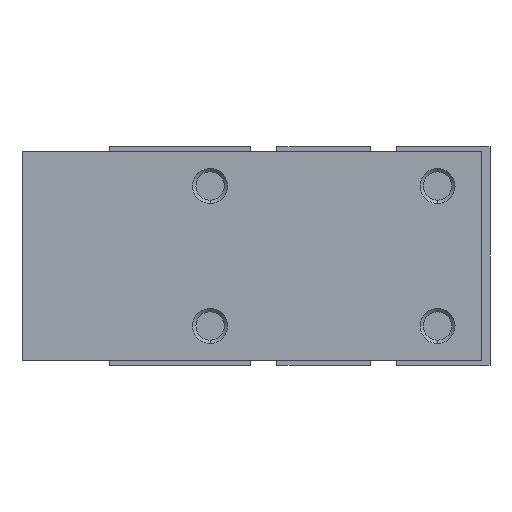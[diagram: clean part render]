
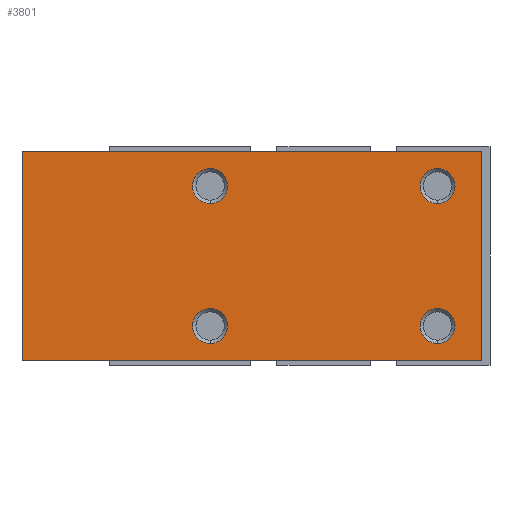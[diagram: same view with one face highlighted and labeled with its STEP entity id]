
A CAD part, left-side view. The second image highlights one B-rep face of the part: STEP entity #3801.
In plain terms, the highlighted planar face has unit normal (-1, 0, 0).
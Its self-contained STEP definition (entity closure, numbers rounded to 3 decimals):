
#61 = LINE ( 'NONE', #1890, #2529 ) ;
#175 = CARTESIAN_POINT ( 'NONE',  ( -14., -18., -12. ) ) ;
#231 = EDGE_LOOP ( 'NONE', ( #2776, #4178 ) ) ;
#249 = CARTESIAN_POINT ( 'NONE',  ( -14., 34.5, -12. ) ) ;
#285 = CARTESIAN_POINT ( 'NONE',  ( -14., 34.5, 12. ) ) ;
#319 = CIRCLE ( 'NONE', #3099, 2. ) ;
#453 = EDGE_LOOP ( 'NONE', ( #4117, #961 ) ) ;
#549 = CARTESIAN_POINT ( 'NONE',  ( -14., 13., -6. ) ) ;
#551 = VERTEX_POINT ( 'NONE', #3405 ) ;
#588 = FACE_BOUND ( 'NONE', #2471, .T. ) ;
#795 = DIRECTION ( 'NONE',  ( 0., 1., 0. ) ) ;
#826 = DIRECTION ( 'NONE',  ( -1., 0., 0. ) ) ;
#840 = ORIENTED_EDGE ( 'NONE', *, *, #2822, .F. ) ;
#914 = VERTEX_POINT ( 'NONE', #175 ) ;
#961 = ORIENTED_EDGE ( 'NONE', *, *, #2893, .F. ) ;
#972 = EDGE_CURVE ( 'NONE', #3906, #2116, #1620, .T. ) ;
#992 = ORIENTED_EDGE ( 'NONE', *, *, #1438, .T. ) ;
#1013 = VERTEX_POINT ( 'NONE', #2157 ) ;
#1054 = VERTEX_POINT ( 'NONE', #4872 ) ;
#1099 = CIRCLE ( 'NONE', #3294, 2. ) ;
#1265 = AXIS2_PLACEMENT_3D ( 'NONE', #3757, #3696, #1722 ) ;
#1375 = AXIS2_PLACEMENT_3D ( 'NONE', #4981, #2712, #4123 ) ;
#1400 = VERTEX_POINT ( 'NONE', #549 ) ;
#1438 = EDGE_CURVE ( 'NONE', #3329, #914, #2082, .T. ) ;
#1516 = ORIENTED_EDGE ( 'NONE', *, *, #5173, .F. ) ;
#1547 = FACE_BOUND ( 'NONE', #5058, .T. ) ;
#1620 = LINE ( 'NONE', #3450, #3455 ) ;
#1722 = DIRECTION ( 'NONE',  ( 0., 0., 1. ) ) ;
#1890 = CARTESIAN_POINT ( 'NONE',  ( -14., -18., 12. ) ) ;
#1951 = ORIENTED_EDGE ( 'NONE', *, *, #3908, .T. ) ;
#1981 = DIRECTION ( 'NONE',  ( 0., 0., 1. ) ) ;
#1990 = VECTOR ( 'NONE', #3848, 1000. ) ;
#2026 = CARTESIAN_POINT ( 'NONE',  ( -14., 34.5, 12. ) ) ;
#2049 = CIRCLE ( 'NONE', #5679, 2. ) ;
#2082 = LINE ( 'NONE', #249, #1990 ) ;
#2116 = VERTEX_POINT ( 'NONE', #4846 ) ;
#2124 = CIRCLE ( 'NONE', #4324, 2. ) ;
#2157 = CARTESIAN_POINT ( 'NONE',  ( -14., 13., 10. ) ) ;
#2173 = DIRECTION ( 'NONE',  ( -1., 0., 0. ) ) ;
#2231 = ORIENTED_EDGE ( 'NONE', *, *, #972, .F. ) ;
#2237 = AXIS2_PLACEMENT_3D ( 'NONE', #4222, #4701, #1981 ) ;
#2243 = VERTEX_POINT ( 'NONE', #2834 ) ;
#2308 = VECTOR ( 'NONE', #5324, 1000. ) ;
#2334 = DIRECTION ( 'NONE',  ( -1., 0., 0. ) ) ;
#2405 = DIRECTION ( 'NONE',  ( 0., 0., 1. ) ) ;
#2417 = CIRCLE ( 'NONE', #4602, 2. ) ;
#2471 = EDGE_LOOP ( 'NONE', ( #840, #2574 ) ) ;
#2529 = VECTOR ( 'NONE', #5900, 1000. ) ;
#2574 = ORIENTED_EDGE ( 'NONE', *, *, #4264, .F. ) ;
#2712 = DIRECTION ( 'NONE',  ( -1., 0., 0. ) ) ;
#2726 = EDGE_CURVE ( 'NONE', #2116, #914, #61, .T. ) ;
#2776 = ORIENTED_EDGE ( 'NONE', *, *, #4748, .F. ) ;
#2783 = VERTEX_POINT ( 'NONE', #4643 ) ;
#2822 = EDGE_CURVE ( 'NONE', #1400, #5881, #1099, .T. ) ;
#2834 = CARTESIAN_POINT ( 'NONE',  ( -14., -13., -6. ) ) ;
#2893 = EDGE_CURVE ( 'NONE', #2783, #551, #4154, .T. ) ;
#2982 = VERTEX_POINT ( 'NONE', #5610 ) ;
#3045 = CARTESIAN_POINT ( 'NONE',  ( -14., 13., 8. ) ) ;
#3099 = AXIS2_PLACEMENT_3D ( 'NONE', #3340, #5096, #2405 ) ;
#3182 = EDGE_CURVE ( 'NONE', #551, #2783, #3198, .T. ) ;
#3198 = CIRCLE ( 'NONE', #1375, 2. ) ;
#3277 = CIRCLE ( 'NONE', #1265, 2. ) ;
#3294 = AXIS2_PLACEMENT_3D ( 'NONE', #4516, #4546, #4103 ) ;
#3329 = VERTEX_POINT ( 'NONE', #3742 ) ;
#3340 = CARTESIAN_POINT ( 'NONE',  ( -14., 13., 8. ) ) ;
#3405 = CARTESIAN_POINT ( 'NONE',  ( -14., -13., 10. ) ) ;
#3450 = CARTESIAN_POINT ( 'NONE',  ( -14., 34.5, 12. ) ) ;
#3455 = VECTOR ( 'NONE', #5271, 1000. ) ;
#3499 = LINE ( 'NONE', #3945, #2308 ) ;
#3692 = EDGE_LOOP ( 'NONE', ( #992, #4451, #2231, #1951 ) ) ;
#3696 = DIRECTION ( 'NONE',  ( -1., 0., 0. ) ) ;
#3742 = CARTESIAN_POINT ( 'NONE',  ( -14., 34.5, -12. ) ) ;
#3757 = CARTESIAN_POINT ( 'NONE',  ( -14., -13., -8. ) ) ;
#3801 = ADVANCED_FACE ( 'NONE', ( #4689, #588, #3831, #5649, #1547 ), #5070, .F. ) ;
#3831 = FACE_BOUND ( 'NONE', #453, .T. ) ;
#3848 = DIRECTION ( 'NONE',  ( 0., -1., 0. ) ) ;
#3906 = VERTEX_POINT ( 'NONE', #285 ) ;
#3908 = EDGE_CURVE ( 'NONE', #3906, #3329, #3499, .T. ) ;
#3920 = EDGE_CURVE ( 'NONE', #1013, #2982, #2124, .T. ) ;
#3945 = CARTESIAN_POINT ( 'NONE',  ( -14., 34.5, 12. ) ) ;
#4103 = DIRECTION ( 'NONE',  ( 0., 0., 1. ) ) ;
#4117 = ORIENTED_EDGE ( 'NONE', *, *, #3182, .F. ) ;
#4123 = DIRECTION ( 'NONE',  ( 0., 0., 1. ) ) ;
#4145 = DIRECTION ( 'NONE',  ( 0., 0., 1. ) ) ;
#4154 = CIRCLE ( 'NONE', #2237, 2. ) ;
#4161 = DIRECTION ( 'NONE',  ( 0., 0., 1. ) ) ;
#4178 = ORIENTED_EDGE ( 'NONE', *, *, #4247, .F. ) ;
#4222 = CARTESIAN_POINT ( 'NONE',  ( -14., -13., 8. ) ) ;
#4247 = EDGE_CURVE ( 'NONE', #1054, #2243, #3277, .T. ) ;
#4264 = EDGE_CURVE ( 'NONE', #5881, #1400, #2417, .T. ) ;
#4324 = AXIS2_PLACEMENT_3D ( 'NONE', #3045, #826, #5427 ) ;
#4451 = ORIENTED_EDGE ( 'NONE', *, *, #2726, .F. ) ;
#4516 = CARTESIAN_POINT ( 'NONE',  ( -14., 13., -8. ) ) ;
#4546 = DIRECTION ( 'NONE',  ( -1., 0., 0. ) ) ;
#4602 = AXIS2_PLACEMENT_3D ( 'NONE', #5546, #2173, #4145 ) ;
#4643 = CARTESIAN_POINT ( 'NONE',  ( -14., -13., 6. ) ) ;
#4689 = FACE_OUTER_BOUND ( 'NONE', #3692, .T. ) ;
#4701 = DIRECTION ( 'NONE',  ( -1., 0., 0. ) ) ;
#4748 = EDGE_CURVE ( 'NONE', #2243, #1054, #2049, .T. ) ;
#4785 = ORIENTED_EDGE ( 'NONE', *, *, #3920, .F. ) ;
#4801 = AXIS2_PLACEMENT_3D ( 'NONE', #2026, #4886, #795 ) ;
#4846 = CARTESIAN_POINT ( 'NONE',  ( -14., -18., 12. ) ) ;
#4872 = CARTESIAN_POINT ( 'NONE',  ( -14., -13., -10. ) ) ;
#4886 = DIRECTION ( 'NONE',  ( 1., 0., 0. ) ) ;
#4929 = CARTESIAN_POINT ( 'NONE',  ( -14., 13., -10. ) ) ;
#4981 = CARTESIAN_POINT ( 'NONE',  ( -14., -13., 8. ) ) ;
#5058 = EDGE_LOOP ( 'NONE', ( #4785, #1516 ) ) ;
#5070 = PLANE ( 'NONE',  #4801 ) ;
#5096 = DIRECTION ( 'NONE',  ( -1., 0., 0. ) ) ;
#5173 = EDGE_CURVE ( 'NONE', #2982, #1013, #319, .T. ) ;
#5271 = DIRECTION ( 'NONE',  ( 0., -1., 0. ) ) ;
#5324 = DIRECTION ( 'NONE',  ( 0., 0., -1. ) ) ;
#5427 = DIRECTION ( 'NONE',  ( 0., 0., 1. ) ) ;
#5546 = CARTESIAN_POINT ( 'NONE',  ( -14., 13., -8. ) ) ;
#5610 = CARTESIAN_POINT ( 'NONE',  ( -14., 13., 6. ) ) ;
#5649 = FACE_BOUND ( 'NONE', #231, .T. ) ;
#5679 = AXIS2_PLACEMENT_3D ( 'NONE', #5684, #2334, #4161 ) ;
#5684 = CARTESIAN_POINT ( 'NONE',  ( -14., -13., -8. ) ) ;
#5881 = VERTEX_POINT ( 'NONE', #4929 ) ;
#5900 = DIRECTION ( 'NONE',  ( 0., 0., -1. ) ) ;
